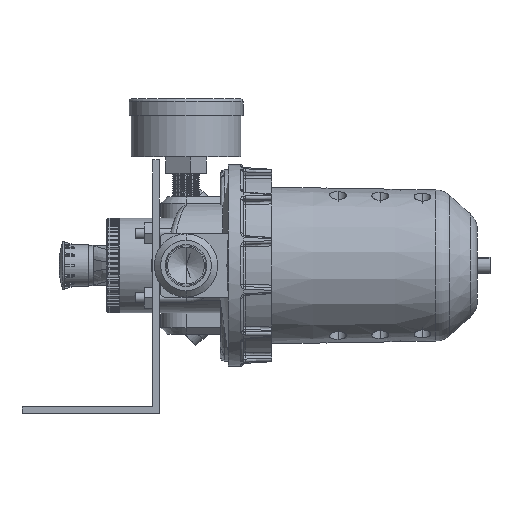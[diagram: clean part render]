
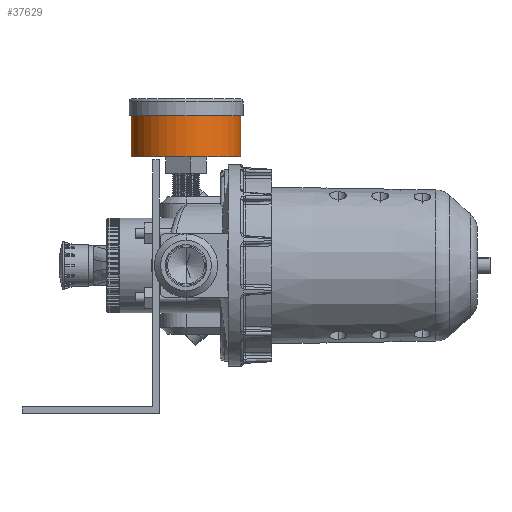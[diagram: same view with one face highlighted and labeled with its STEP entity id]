
A CAD part, left-side view. The second image highlights one B-rep face of the part: STEP entity #37629.
In plain terms, the highlighted cylindrical face has radius 26 mm (diameter 52 mm), a partial arc.
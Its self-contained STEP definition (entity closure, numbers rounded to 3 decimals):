
#1752 = ORIENTED_EDGE ( 'NONE', *, *, #26972, .T. ) ;
#4806 = CARTESIAN_POINT ( 'NONE',  ( 0., 27.5, 26. ) ) ;
#6018 = LINE ( 'NONE', #56283, #25757 ) ;
#8155 = CARTESIAN_POINT ( 'NONE',  ( 0., 0., 0. ) ) ;
#9617 = LINE ( 'NONE', #4806, #51389 ) ;
#9701 = AXIS2_PLACEMENT_3D ( 'NONE', #56529, #41491, #51600 ) ;
#11717 = DIRECTION ( 'NONE',  ( 0., -1., 0. ) ) ;
#15274 = CARTESIAN_POINT ( 'NONE',  ( 0., 0., -26. ) ) ;
#16495 = EDGE_LOOP ( 'NONE', ( #40410, #28930, #18162, #1752 ) ) ;
#16849 = AXIS2_PLACEMENT_3D ( 'NONE', #8155, #43406, #54216 ) ;
#18162 = ORIENTED_EDGE ( 'NONE', *, *, #20996, .T. ) ;
#18235 = CYLINDRICAL_SURFACE ( 'NONE', #9701, 26. ) ;
#20283 = DIRECTION ( 'NONE',  ( 0., -1., 0. ) ) ;
#20996 = EDGE_CURVE ( 'NONE', #46023, #63970, #6018, .T. ) ;
#24189 = CARTESIAN_POINT ( 'NONE',  ( 0., 19.5, 0. ) ) ;
#24220 = CARTESIAN_POINT ( 'NONE',  ( 0., 19.5, 26. ) ) ;
#24483 = CARTESIAN_POINT ( 'NONE',  ( 0., 19.5, -26. ) ) ;
#24586 = CIRCLE ( 'NONE', #16849, 26. ) ;
#25757 = VECTOR ( 'NONE', #11717, 1000. ) ;
#25814 = EDGE_CURVE ( 'NONE', #50322, #44498, #9617, .T. ) ;
#26972 = EDGE_CURVE ( 'NONE', #63970, #44498, #24586, .T. ) ;
#27888 = CIRCLE ( 'NONE', #36718, 26. ) ;
#28930 = ORIENTED_EDGE ( 'NONE', *, *, #34595, .F. ) ;
#34061 = DIRECTION ( 'NONE',  ( 0., 0., 1. ) ) ;
#34595 = EDGE_CURVE ( 'NONE', #46023, #50322, #27888, .T. ) ;
#36718 = AXIS2_PLACEMENT_3D ( 'NONE', #24189, #39365, #34061 ) ;
#37629 = ADVANCED_FACE ( 'NONE', ( #56059 ), #18235, .T. ) ;
#39365 = DIRECTION ( 'NONE',  ( 0., 1., 0. ) ) ;
#40410 = ORIENTED_EDGE ( 'NONE', *, *, #25814, .F. ) ;
#41491 = DIRECTION ( 'NONE',  ( 0., -1., 0. ) ) ;
#43406 = DIRECTION ( 'NONE',  ( 0., 1., 0. ) ) ;
#44498 = VERTEX_POINT ( 'NONE', #62247 ) ;
#46023 = VERTEX_POINT ( 'NONE', #24483 ) ;
#50322 = VERTEX_POINT ( 'NONE', #24220 ) ;
#51389 = VECTOR ( 'NONE', #20283, 1000. ) ;
#51600 = DIRECTION ( 'NONE',  ( 0., 0., -1. ) ) ;
#54216 = DIRECTION ( 'NONE',  ( 0., 0., 1. ) ) ;
#56059 = FACE_OUTER_BOUND ( 'NONE', #16495, .T. ) ;
#56283 = CARTESIAN_POINT ( 'NONE',  ( 0., 27.5, -26. ) ) ;
#56529 = CARTESIAN_POINT ( 'NONE',  ( 0., 27.5, 0. ) ) ;
#62247 = CARTESIAN_POINT ( 'NONE',  ( 0., 0., 26. ) ) ;
#63970 = VERTEX_POINT ( 'NONE', #15274 ) ;
